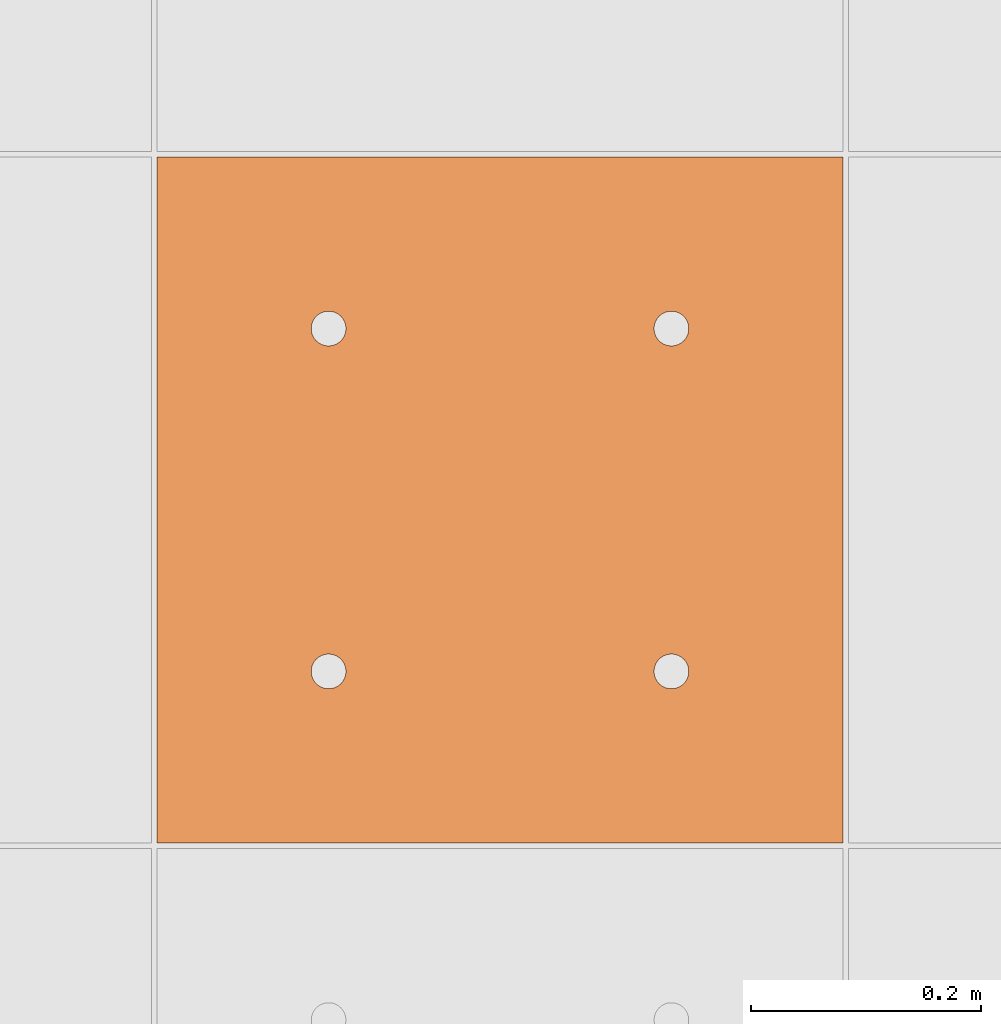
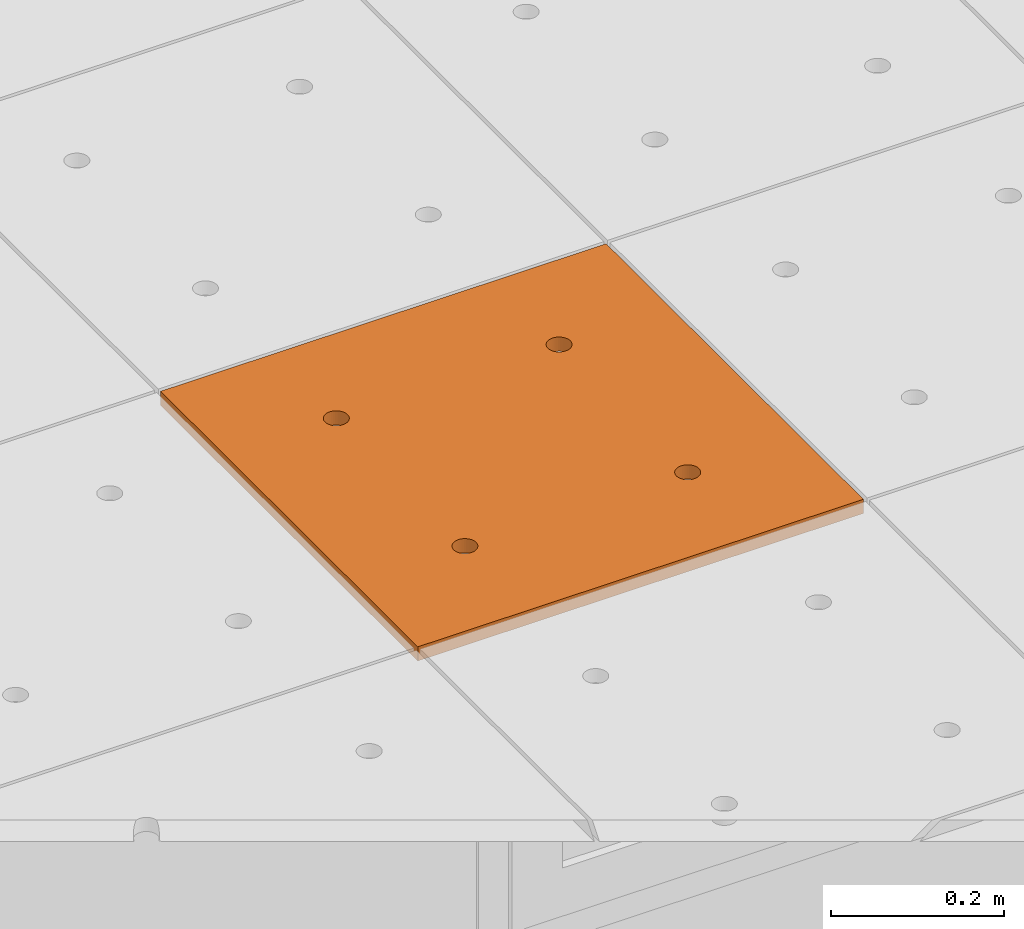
# One storey, part 302 of 338: 1 proxy, 1 element without a shape of its own.
"""IFC2X3 building model written with IfcOpenShell, lengths in millimetres."""

from ifc_helpers import new_model, entity, si_unit, converted_unit, derived_unit, money_unit, direction, frame, origin_with_axes, place, context, subcontext, project, spatial, faceted_brep, source, transform, mapped, material, type_object, type_shapes, element, aggregate, save


model = new_model("IFC2X3")

# Units and contexts
model_context = context("Model", 3, precision=0.01, world=origin_with_axes(), true_north=direction((0.0, 1.0)))
plan_context = context("Plan", 3, precision=0.01, world=origin_with_axes(), true_north=direction((0.0, 1.0)))
body_context = subcontext(model_context, "Body", "Model", "MODEL_VIEW")
ifc_project = project(units=[si_unit("LENGTHUNIT", "METRE", prefix="MILLI"), si_unit("AREAUNIT", "SQUARE_METRE"), si_unit("VOLUMEUNIT", "CUBIC_METRE"), converted_unit("PLANEANGLEUNIT", "DEGREE", entity("IfcPlaneAngleMeasure", 0.0174532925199), si_unit("PLANEANGLEUNIT", "RADIAN"), dimensions=[0, 0, 0, 0, 0, 0, 0]), money_unit("EUR"), converted_unit("TIMEUNIT", "Year", entity("IfcTimeMeasure", 31556926.0), si_unit("TIMEUNIT", "SECOND"), dimensions=[0, 0, 1, 0, 0, 0, 0]), si_unit("MASSUNIT", "GRAM", prefix="KILO"), si_unit("THERMODYNAMICTEMPERATUREUNIT", "DEGREE_CELSIUS"), si_unit("LUMINOUSINTENSITYUNIT", "LUMEN"), si_unit("ENERGYUNIT", "JOULE", prefix="MEGA"), derived_unit("THERMALCONDUCTANCEUNIT", [(si_unit("POWERUNIT", "WATT"), 1), (si_unit("LENGTHUNIT", "METRE"), -1), (si_unit("THERMODYNAMICTEMPERATUREUNIT", "KELVIN"), -1)]), derived_unit("SPECIFICHEATCAPACITYUNIT", [(si_unit("ENERGYUNIT", "JOULE"), 1), (si_unit("MASSUNIT", "GRAM", prefix="KILO"), -1), (si_unit("THERMODYNAMICTEMPERATUREUNIT", "KELVIN"), -1)]), derived_unit("MASSDENSITYUNIT", [(si_unit("MASSUNIT", "GRAM", prefix="KILO"), 1), (si_unit("VOLUMEUNIT", "CUBIC_METRE"), -1)])], contexts=[model_context, plan_context])

# Site, building, storey
site_placement = place(None, origin_with_axes())
site = spatial("IfcSite", under=ifc_project, at=site_placement, Name="Fortuinstraat Woensdrecht", CompositionType="ELEMENT")
building_placement = place(site_placement, origin_with_axes())
building = spatial("IfcBuilding", under=site, at=building_placement, Name="IKC Fortuna", CompositionType="ELEMENT")
storey_placement = place(building_placement, origin_with_axes())
storey = spatial("IfcBuildingStorey", under=building, at=storey_placement, Name="00 begane grond", CompositionType="ELEMENT", Elevation=0.0)

# Covering, proxy
covering_type = type_object("IfcCoveringType", Name="Curtain Wall Type", PredefinedType="CEILING")
covering_placement = place(storey_placement, frame((24394.3550152, 31482.3495284, 3210.0), z_axis=(0.0, 0.0, 1.0), x_axis=(1.0, 0.0, 0.0)))
covering = element("IfcCovering", 1, at=covering_placement, inside=storey, type_object=covering_type, Name="45_Plafondafwerking_P01", PredefinedType="CEILING")
ifc_material = material(Name="Gipsplaat")
building_element_proxy_type = type_object("IfcBuildingElementProxyType", Name="Main Panel 600 x 600 x 20", PredefinedType="NOTDEFINED")
shared_shape = source(origin_with_axes(), body_context, "Body", "Brep", [
    faceted_brep([(2.49999999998, 2.49999999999, -10.0), (300.0, 2.49999999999, -10.0), (300.0, 2.49999999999, 10.0), (2.49999999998, 2.49999999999, 10.0), (2.49999999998, 300.0, -10.0), (2.49999999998, 597.5, -10.0), (300.0, 597.5, -10.0), (597.5, 597.5, -10.0), (597.5, 300.0, -10.0), (597.5, 2.49999999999, -10.0), (166.25, 450.06232995, -10.0), (165.79423259, 452.64711538, -10.0), (164.896546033, 455.11348892, -10.0), (163.58421608, 457.38651108, -10.0), (161.897117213, 459.39711721, -10.0), (159.886511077, 461.08421608, -10.0), (157.613488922, 462.39654603, -10.0), (155.147115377, 463.29423259, -10.0), (152.562329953, 463.75, -10.0), (149.937670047, 463.75, -10.0), (147.352884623, 463.29423259, -10.0), (144.886511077, 462.39654603, -10.0), (142.613488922, 461.08421608, -10.0), (140.602882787, 459.39711721, -10.0), (138.91578392, 457.38651108, -10.0), (137.603453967, 455.11348892, -10.0), (136.705767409, 452.64711538, -10.0), (136.25, 450.06232995, -10.0), (136.25, 448.75, -10.0), (136.25, 447.43767005, -10.0), (136.705767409, 444.85288462, -10.0), (137.603453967, 442.38651108, -10.0), (138.91578392, 440.11348892, -10.0), (140.602882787, 438.10288279, -10.0), (142.613488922, 436.41578392, -10.0), (144.886511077, 435.10345397, -10.0), (147.352884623, 434.20576741, -10.0), (149.937670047, 433.75, -10.0), (152.562329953, 433.75, -10.0), (155.147115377, 434.20576741, -10.0), (157.613488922, 435.10345397, -10.0), (159.886511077, 436.41578392, -10.0), (161.897117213, 438.10288279, -10.0), (163.58421608, 440.11348892, -10.0), (164.896546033, 442.38651108, -10.0), (165.79423259, 444.85288462, -10.0), (166.25, 447.43767005, -10.0), (463.75, 450.06232995, -10.0), (463.29423259, 452.64711538, -10.0), (462.396546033, 455.11348892, -10.0), (461.08421608, 457.38651108, -10.0), (459.397117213, 459.39711721, -10.0), (457.386511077, 461.08421608, -10.0), (455.113488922, 462.39654603, -10.0), (452.647115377, 463.29423259, -10.0), (450.062329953, 463.75, -10.0), (447.437670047, 463.75, -10.0), (444.852884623, 463.29423259, -10.0), (442.386511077, 462.39654603, -10.0), (440.113488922, 461.08421608, -10.0), (438.102882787, 459.39711721, -10.0), (436.41578392, 457.38651108, -10.0), (435.103453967, 455.11348892, -10.0), (434.205767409, 452.64711538, -10.0), (433.75, 450.06232995, -10.0), (433.75, 448.75, -10.0), (433.75, 447.43767005, -10.0), (434.205767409, 444.85288462, -10.0), (435.103453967, 442.38651108, -10.0), (436.41578392, 440.11348892, -10.0), (438.102882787, 438.10288279, -10.0), (440.113488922, 436.41578392, -10.0), (442.386511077, 435.10345397, -10.0), (444.852884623, 434.20576741, -10.0), (447.437670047, 433.75, -10.0), (450.062329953, 433.75, -10.0), (452.647115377, 434.20576741, -10.0), (455.113488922, 435.10345397, -10.0), (457.386511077, 436.41578392, -10.0), (459.397117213, 438.10288279, -10.0), (461.08421608, 440.11348892, -10.0), (462.396546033, 442.38651108, -10.0), (463.29423259, 444.85288462, -10.0), (463.75, 447.43767005, -10.0), (463.75, 152.56232995, -10.0), (463.29423259, 155.14711538, -10.0), (462.396546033, 157.61348892, -10.0), (461.08421608, 159.88651108, -10.0), (459.397117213, 161.89711721, -10.0), (457.386511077, 163.58421608, -10.0), (455.113488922, 164.89654603, -10.0), (452.647115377, 165.79423259, -10.0), (450.062329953, 166.25, -10.0), (447.437670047, 166.25, -10.0), (444.852884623, 165.79423259, -10.0), (442.386511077, 164.89654603, -10.0), (440.113488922, 163.58421608, -10.0), (438.102882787, 161.89711721, -10.0), (436.41578392, 159.88651108, -10.0), (435.103453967, 157.61348892, -10.0), (434.205767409, 155.14711538, -10.0), (433.75, 152.56232995, -10.0), (433.75, 151.25, -10.0), (433.75, 149.93767005, -10.0), (434.205767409, 147.35288462, -10.0), (435.103453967, 144.88651108, -10.0), (436.41578392, 142.61348892, -10.0), (438.102882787, 140.60288279, -10.0), (440.113488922, 138.91578392, -10.0), (442.386511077, 137.60345397, -10.0), (444.852884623, 136.70576741, -10.0), (447.437670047, 136.25, -10.0), (450.062329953, 136.25, -10.0), (452.647115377, 136.70576741, -10.0), (455.113488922, 137.60345397, -10.0), (457.386511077, 138.91578392, -10.0), (459.397117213, 140.60288279, -10.0), (461.08421608, 142.61348892, -10.0), (462.396546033, 144.88651108, -10.0), (463.29423259, 147.35288462, -10.0), (463.75, 149.93767005, -10.0), (166.25, 152.56232995, -10.0), (165.79423259, 155.14711538, -10.0), (164.896546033, 157.61348892, -10.0), (163.58421608, 159.88651108, -10.0), (161.897117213, 161.89711721, -10.0), (159.886511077, 163.58421608, -10.0), (157.613488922, 164.89654603, -10.0), (155.147115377, 165.79423259, -10.0), (152.562329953, 166.25, -10.0), (149.937670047, 166.25, -10.0), (147.352884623, 165.79423259, -10.0), (144.886511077, 164.89654603, -10.0), (142.613488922, 163.58421608, -10.0), (140.602882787, 161.89711721, -10.0), (138.91578392, 159.88651108, -10.0), (137.603453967, 157.61348892, -10.0), (136.705767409, 155.14711538, -10.0), (136.25, 152.56232995, -10.0), (136.25, 151.25, -10.0), (136.25, 149.93767005, -10.0), (136.705767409, 147.35288462, -10.0), (137.603453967, 144.88651108, -10.0), (138.91578392, 142.61348892, -10.0), (140.602882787, 140.60288279, -10.0), (142.613488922, 138.91578392, -10.0), (144.886511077, 137.60345397, -10.0), (147.352884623, 136.70576741, -10.0), (149.937670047, 136.25, -10.0), (152.562329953, 136.25, -10.0), (155.147115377, 136.70576741, -10.0), (157.613488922, 137.60345397, -10.0), (159.886511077, 138.91578392, -10.0), (161.897117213, 140.60288279, -10.0), (163.58421608, 142.61348892, -10.0), (164.896546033, 144.88651108, -10.0), (165.79423259, 147.35288462, -10.0), (166.25, 149.93767005, -10.0), (597.5, 2.49999999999, 10.0), (597.5, 300.0, 10.0), (597.5, 597.5, 10.0), (300.0, 597.5, 10.0), (2.49999999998, 597.5, 10.0), (2.49999999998, 300.0, 10.0), (166.25, 450.06232995, 10.0), (166.25, 447.43767005, 10.0), (165.79423259, 444.85288462, 10.0), (164.896546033, 442.38651108, 10.0), (163.58421608, 440.11348892, 10.0), (161.897117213, 438.10288279, 10.0), (159.886511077, 436.41578392, 10.0), (157.613488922, 435.10345397, 10.0), (155.147115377, 434.20576741, 10.0), (152.562329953, 433.75, 10.0), (149.937670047, 433.75, 10.0), (147.352884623, 434.20576741, 10.0), (144.886511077, 435.10345397, 10.0), (142.613488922, 436.41578392, 10.0), (140.602882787, 438.10288279, 10.0), (138.91578392, 440.11348892, 10.0), (137.603453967, 442.38651108, 10.0), (136.705767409, 444.85288462, 10.0), (136.25, 447.43767005, 10.0), (136.25, 448.75, 10.0), (136.25, 450.06232995, 10.0), (136.705767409, 452.64711538, 10.0), (137.603453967, 455.11348892, 10.0), (138.91578392, 457.38651108, 10.0), (140.602882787, 459.39711721, 10.0), (142.613488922, 461.08421608, 10.0), (144.886511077, 462.39654603, 10.0), (147.352884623, 463.29423259, 10.0), (149.937670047, 463.75, 10.0), (152.562329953, 463.75, 10.0), (155.147115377, 463.29423259, 10.0), (157.613488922, 462.39654603, 10.0), (159.886511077, 461.08421608, 10.0), (161.897117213, 459.39711721, 10.0), (163.58421608, 457.38651108, 10.0), (164.896546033, 455.11348892, 10.0), (165.79423259, 452.64711538, 10.0), (463.75, 450.06232995, 10.0), (463.75, 447.43767005, 10.0), (463.29423259, 444.85288462, 10.0), (462.396546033, 442.38651108, 10.0), (461.08421608, 440.11348892, 10.0), (459.397117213, 438.10288279, 10.0), (457.386511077, 436.41578392, 10.0), (455.113488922, 435.10345397, 10.0), (452.647115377, 434.20576741, 10.0), (450.062329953, 433.75, 10.0), (447.437670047, 433.75, 10.0), (444.852884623, 434.20576741, 10.0), (442.386511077, 435.10345397, 10.0), (440.113488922, 436.41578392, 10.0), (438.102882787, 438.10288279, 10.0), (436.41578392, 440.11348892, 10.0), (435.103453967, 442.38651108, 10.0), (434.205767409, 444.85288462, 10.0), (433.75, 447.43767005, 10.0), (433.75, 448.75, 10.0), (433.75, 450.06232995, 10.0), (434.205767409, 452.64711538, 10.0), (435.103453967, 455.11348892, 10.0), (436.41578392, 457.38651108, 10.0), (438.102882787, 459.39711721, 10.0), (440.113488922, 461.08421608, 10.0), (442.386511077, 462.39654603, 10.0), (444.852884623, 463.29423259, 10.0), (447.437670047, 463.75, 10.0), (450.062329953, 463.75, 10.0), (452.647115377, 463.29423259, 10.0), (455.113488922, 462.39654603, 10.0), (457.386511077, 461.08421608, 10.0), (459.397117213, 459.39711721, 10.0), (461.08421608, 457.38651108, 10.0), (462.396546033, 455.11348892, 10.0), (463.29423259, 452.64711538, 10.0), (463.75, 152.56232995, 10.0), (463.75, 149.93767005, 10.0), (463.29423259, 147.35288462, 10.0), (462.396546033, 144.88651108, 10.0), (461.08421608, 142.61348892, 10.0), (459.397117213, 140.60288279, 10.0), (457.386511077, 138.91578392, 10.0), (455.113488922, 137.60345397, 10.0), (452.647115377, 136.70576741, 10.0), (450.062329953, 136.25, 10.0), (447.437670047, 136.25, 10.0), (444.852884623, 136.70576741, 10.0), (442.386511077, 137.60345397, 10.0), (440.113488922, 138.91578392, 10.0), (438.102882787, 140.60288279, 10.0), (436.41578392, 142.61348892, 10.0), (435.103453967, 144.88651108, 10.0), (434.205767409, 147.35288462, 10.0), (433.75, 149.93767005, 10.0), (433.75, 151.25, 10.0), (433.75, 152.56232995, 10.0), (434.205767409, 155.14711538, 10.0), (435.103453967, 157.61348892, 10.0), (436.41578392, 159.88651108, 10.0), (438.102882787, 161.89711721, 10.0), (440.113488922, 163.58421608, 10.0), (442.386511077, 164.89654603, 10.0), (444.852884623, 165.79423259, 10.0), (447.437670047, 166.25, 10.0), (450.062329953, 166.25, 10.0), (452.647115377, 165.79423259, 10.0), (455.113488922, 164.89654603, 10.0), (457.386511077, 163.58421608, 10.0), (459.397117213, 161.89711721, 10.0), (461.08421608, 159.88651108, 10.0), (462.396546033, 157.61348892, 10.0), (463.29423259, 155.14711538, 10.0), (166.25, 152.56232995, 10.0), (166.25, 149.93767005, 10.0), (165.79423259, 147.35288462, 10.0), (164.896546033, 144.88651108, 10.0), (163.58421608, 142.61348892, 10.0), (161.897117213, 140.60288279, 10.0), (159.886511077, 138.91578392, 10.0), (157.613488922, 137.60345397, 10.0), (155.147115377, 136.70576741, 10.0), (152.562329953, 136.25, 10.0), (149.937670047, 136.25, 10.0), (147.352884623, 136.70576741, 10.0), (144.886511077, 137.60345397, 10.0), (142.613488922, 138.91578392, 10.0), (140.602882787, 140.60288279, 10.0), (138.91578392, 142.61348892, 10.0), (137.603453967, 144.88651108, 10.0), (136.705767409, 147.35288462, 10.0), (136.25, 149.93767005, 10.0), (136.25, 151.25, 10.0), (136.25, 152.56232995, 10.0), (136.705767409, 155.14711538, 10.0), (137.603453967, 157.61348892, 10.0), (138.91578392, 159.88651108, 10.0), (140.602882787, 161.89711721, 10.0), (142.613488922, 163.58421608, 10.0), (144.886511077, 164.89654603, 10.0), (147.352884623, 165.79423259, 10.0), (149.937670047, 166.25, 10.0), (152.562329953, 166.25, 10.0), (155.147115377, 165.79423259, 10.0), (157.613488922, 164.89654603, 10.0), (159.886511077, 163.58421608, 10.0), (161.897117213, 161.89711721, 10.0), (163.58421608, 159.88651108, 10.0), (164.896546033, 157.61348892, 10.0), (165.79423259, 155.14711538, 10.0)], [[[0, 1, 2, 3]], [[0, 4, 5, 6, 7, 8, 9, 1], [10, 11, 12, 13, 14, 15, 16, 17, 18, 19, 20, 21, 22, 23, 24, 25, 26, 27, 28, 29, 30, 31, 32, 33, 34, 35, 36, 37, 38, 39, 40, 41, 42, 43, 44, 45, 46], [47, 48, 49, 50, 51, 52, 53, 54, 55, 56, 57, 58, 59, 60, 61, 62, 63, 64, 65, 66, 67, 68, 69, 70, 71, 72, 73, 74, 75, 76, 77, 78, 79, 80, 81, 82, 83], [84, 85, 86, 87, 88, 89, 90, 91, 92, 93, 94, 95, 96, 97, 98, 99, 100, 101, 102, 103, 104, 105, 106, 107, 108, 109, 110, 111, 112, 113, 114, 115, 116, 117, 118, 119, 120], [121, 122, 123, 124, 125, 126, 127, 128, 129, 130, 131, 132, 133, 134, 135, 136, 137, 138, 139, 140, 141, 142, 143, 144, 145, 146, 147, 148, 149, 150, 151, 152, 153, 154, 155, 156, 157]], [[1, 9, 158, 2]], [[3, 2, 158, 159, 160, 161, 162, 163], [164, 165, 166, 167, 168, 169, 170, 171, 172, 173, 174, 175, 176, 177, 178, 179, 180, 181, 182, 183, 184, 185, 186, 187, 188, 189, 190, 191, 192, 193, 194, 195, 196, 197, 198, 199, 200], [201, 202, 203, 204, 205, 206, 207, 208, 209, 210, 211, 212, 213, 214, 215, 216, 217, 218, 219, 220, 221, 222, 223, 224, 225, 226, 227, 228, 229, 230, 231, 232, 233, 234, 235, 236, 237], [238, 239, 240, 241, 242, 243, 244, 245, 246, 247, 248, 249, 250, 251, 252, 253, 254, 255, 256, 257, 258, 259, 260, 261, 262, 263, 264, 265, 266, 267, 268, 269, 270, 271, 272, 273, 274], [275, 276, 277, 278, 279, 280, 281, 282, 283, 284, 285, 286, 287, 288, 289, 290, 291, 292, 293, 294, 295, 296, 297, 298, 299, 300, 301, 302, 303, 304, 305, 306, 307, 308, 309, 310, 311]], [[4, 0, 3, 163]], [[5, 4, 163, 162]], [[6, 5, 162, 161]], [[7, 6, 161, 160]], [[8, 7, 160, 159]], [[9, 8, 159, 158]], [[11, 10, 164, 200]], [[12, 11, 200, 199]], [[13, 12, 199, 198]], [[14, 13, 198, 197]], [[15, 14, 197, 196]], [[16, 15, 196, 195]], [[17, 16, 195, 194]], [[18, 17, 194, 193]], [[19, 18, 193, 192]], [[20, 19, 192, 191]], [[21, 20, 191, 190]], [[22, 21, 190, 189]], [[23, 22, 189, 188]], [[24, 23, 188, 187]], [[25, 24, 187, 186]], [[26, 25, 186, 185]], [[27, 26, 185, 184]], [[28, 27, 184, 183]], [[29, 28, 183, 182]], [[30, 29, 182, 181]], [[31, 30, 181, 180]], [[32, 31, 180, 179]], [[33, 32, 179, 178]], [[34, 33, 178, 177]], [[35, 34, 177, 176]], [[36, 35, 176, 175]], [[37, 36, 175, 174]], [[38, 37, 174, 173]], [[39, 38, 173, 172]], [[40, 39, 172, 171]], [[41, 40, 171, 170]], [[42, 41, 170, 169]], [[43, 42, 169, 168]], [[44, 43, 168, 167]], [[45, 44, 167, 166]], [[46, 45, 166, 165]], [[10, 46, 165, 164]], [[48, 47, 201, 237]], [[49, 48, 237, 236]], [[50, 49, 236, 235]], [[51, 50, 235, 234]], [[52, 51, 234, 233]], [[53, 52, 233, 232]], [[54, 53, 232, 231]], [[55, 54, 231, 230]], [[56, 55, 230, 229]], [[57, 56, 229, 228]], [[58, 57, 228, 227]], [[59, 58, 227, 226]], [[60, 59, 226, 225]], [[61, 60, 225, 224]], [[62, 61, 224, 223]], [[63, 62, 223, 222]], [[64, 63, 222, 221]], [[65, 64, 221, 220]], [[66, 65, 220, 219]], [[67, 66, 219, 218]], [[68, 67, 218, 217]], [[69, 68, 217, 216]], [[70, 69, 216, 215]], [[71, 70, 215, 214]], [[72, 71, 214, 213]], [[73, 72, 213, 212]], [[74, 73, 212, 211]], [[75, 74, 211, 210]], [[76, 75, 210, 209]], [[77, 76, 209, 208]], [[78, 77, 208, 207]], [[79, 78, 207, 206]], [[80, 79, 206, 205]], [[81, 80, 205, 204]], [[82, 81, 204, 203]], [[83, 82, 203, 202]], [[47, 83, 202, 201]], [[85, 84, 238, 274]], [[86, 85, 274, 273]], [[87, 86, 273, 272]], [[88, 87, 272, 271]], [[89, 88, 271, 270]], [[90, 89, 270, 269]], [[91, 90, 269, 268]], [[92, 91, 268, 267]], [[93, 92, 267, 266]], [[94, 93, 266, 265]], [[95, 94, 265, 264]], [[96, 95, 264, 263]], [[97, 96, 263, 262]], [[98, 97, 262, 261]], [[99, 98, 261, 260]], [[100, 99, 260, 259]], [[101, 100, 259, 258]], [[102, 101, 258, 257]], [[103, 102, 257, 256]], [[104, 103, 256, 255]], [[105, 104, 255, 254]], [[106, 105, 254, 253]], [[107, 106, 253, 252]], [[108, 107, 252, 251]], [[109, 108, 251, 250]], [[110, 109, 250, 249]], [[111, 110, 249, 248]], [[112, 111, 248, 247]], [[113, 112, 247, 246]], [[114, 113, 246, 245]], [[115, 114, 245, 244]], [[116, 115, 244, 243]], [[117, 116, 243, 242]], [[118, 117, 242, 241]], [[119, 118, 241, 240]], [[120, 119, 240, 239]], [[84, 120, 239, 238]], [[122, 121, 275, 311]], [[123, 122, 311, 310]], [[124, 123, 310, 309]], [[125, 124, 309, 308]], [[126, 125, 308, 307]], [[127, 126, 307, 306]], [[128, 127, 306, 305]], [[129, 128, 305, 304]], [[130, 129, 304, 303]], [[131, 130, 303, 302]], [[132, 131, 302, 301]], [[133, 132, 301, 300]], [[134, 133, 300, 299]], [[135, 134, 299, 298]], [[136, 135, 298, 297]], [[137, 136, 297, 296]], [[138, 137, 296, 295]], [[139, 138, 295, 294]], [[140, 139, 294, 293]], [[141, 140, 293, 292]], [[142, 141, 292, 291]], [[143, 142, 291, 290]], [[144, 143, 290, 289]], [[145, 144, 289, 288]], [[146, 145, 288, 287]], [[147, 146, 287, 286]], [[148, 147, 286, 285]], [[149, 148, 285, 284]], [[150, 149, 284, 283]], [[151, 150, 283, 282]], [[152, 151, 282, 281]], [[153, 152, 281, 280]], [[154, 153, 280, 279]], [[155, 154, 279, 278]], [[156, 155, 278, 277]], [[157, 156, 277, 276]], [[121, 157, 276, 275]]]),
])
type_shapes(building_element_proxy_type, [shared_shape])
proxy_placement = place(covering_placement, frame((1200.0, 1800.0, 1.06581410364e-10), z_axis=(0.0, 0.0, 1.0), x_axis=(1.0, 0.0, 0.0)))
proxy = element("IfcBuildingElementProxy", 2, at=proxy_placement, type_object=building_element_proxy_type, material=ifc_material, Name="__600x657 Rockfon Krios", context=body_context, shape_type="MappedRepresentation", body=[
    mapped(shared_shape, transform((300.0, 300.0, 0.0), x_axis=(-1.0, 0.0, 0.0), y_axis=(0.0, -1.0, 0.0), z_axis=(0.0, 0.0, 1.0))),
])
aggregate(covering, [proxy])

save(model, "model.ifc")
